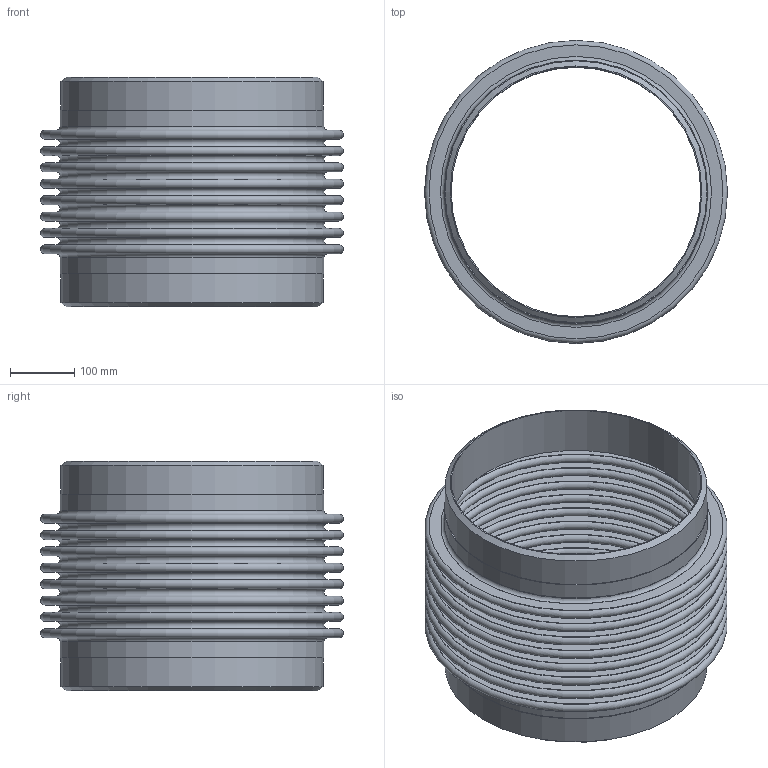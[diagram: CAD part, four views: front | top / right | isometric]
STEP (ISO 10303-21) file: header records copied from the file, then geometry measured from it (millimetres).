
FILE_DESCRIPTION(/* description */ (''),/* implementation_level */ '2;1');
FILE_NAME(/* name */ 'PIPE- 16 - 85 PSIG.stp',/* time_stamp */ '2026-07-23T09:32:38-05:00',/* author */ ('jorgef'),/* organization */ (''),/* preprocessor_version */ 'ST-DEVELOPER v20.1',/* originating_system */ 'Autodesk Inventor 2026',/* authorisation */ '');
FILE_SCHEMA (('AUTOMOTIVE_DESIGN { 1 0 10303 214 3 1 1 }'));
Length unit declared in the file: inch
Products named in the file (1): PIPE- 16 - 85 PSIG ASSEMBLY PART
Bounding box: 469.9 x 469.9 x 355.6 mm (x, y, z)
Volume: 2842733.8 mm3; surface area: 2084786.1 mm2
Topology: 1 solids, 1 shells, 80 faces, 126 edges, 84 vertices
Faces by surface type: plane 38, torus 34, cylinder 6, cone 2
Full cylindrical faces by diameter (mm): 387.35 x2, 406.4 x2, 408.838 x2
Entity records: 2035 total; most frequent: DIRECTION 406, CARTESIAN_POINT 291, ORIENTED_EDGE 252, AXIS2_PLACEMENT_3D 199, EDGE_CURVE 126, EDGE_LOOP 118, CIRCLE 118, VERTEX_POINT 84
